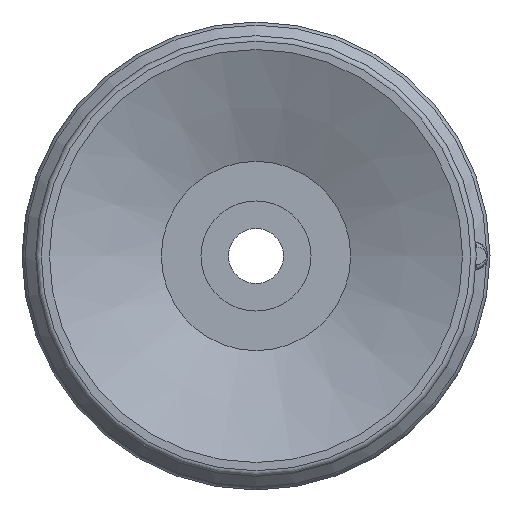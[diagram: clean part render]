
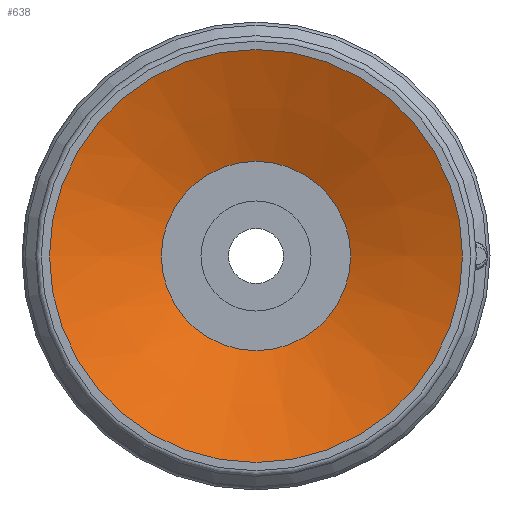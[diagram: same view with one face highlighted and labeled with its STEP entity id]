
A CAD part, front view. The second image highlights one B-rep face of the part: STEP entity #638.
In plain terms, the highlighted conical face has half-angle 67.5 degrees and reference radius 3.437 mm.
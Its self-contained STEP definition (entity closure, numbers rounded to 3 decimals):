
#638=ADVANCED_FACE('',(#901,#902),#903,.F.);
#901=FACE_BOUND('',#2177,.T.);
#902=FACE_OUTER_BOUND('',#2178,.T.);
#903=CONICAL_SURFACE('',#2179,3.437,1.178);
#2177=EDGE_LOOP('',(#2814));
#2178=EDGE_LOOP('',(#2815));
#2179=AXIS2_PLACEMENT_3D('',#2816,#2817,#2818);
#2814=ORIENTED_EDGE('',*,*,#2995,.F.);
#2815=ORIENTED_EDGE('',*,*,#2983,.T.);
#2816=CARTESIAN_POINT('',(0.0,0.0,1.683));
#2817=DIRECTION('',(0.0,0.,-1.0));
#2818=DIRECTION('',(0.0,1.0,0.));
#2983=EDGE_CURVE('',#3268,#3268,#3269,.T.);
#2995=EDGE_CURVE('',#3292,#3292,#3293,.T.);
#3268=VERTEX_POINT('',#4085);
#3269=CIRCLE('',#4086,7.5);
#3292=VERTEX_POINT('',#4109);
#3293=CIRCLE('',#4110,3.437);
#4085=CARTESIAN_POINT('',(-7.5,0.0,0.));
#4086=AXIS2_PLACEMENT_3D('',#4341,#4342,#4343);
#4109=CARTESIAN_POINT('',(-3.437,0.0,1.683));
#4110=AXIS2_PLACEMENT_3D('',#4377,#4378,#4379);
#4341=CARTESIAN_POINT('',(0.0,0.0,0.));
#4342=DIRECTION('',(0.0,0.,-1.0));
#4343=DIRECTION('',(0.0,1.0,0.));
#4377=CARTESIAN_POINT('',(0.0,0.0,1.683));
#4378=DIRECTION('',(0.0,0.,-1.0));
#4379=DIRECTION('',(0.0,1.0,0.));
